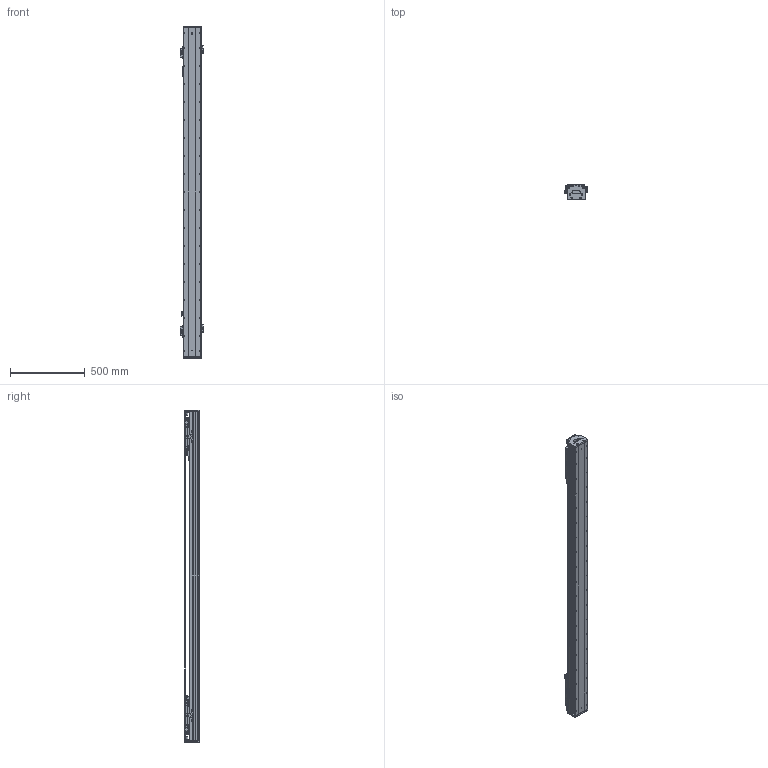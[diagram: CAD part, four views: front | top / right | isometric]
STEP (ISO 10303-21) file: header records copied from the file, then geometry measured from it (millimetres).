
FILE_DESCRIPTION (( 'STEP AP203' ), '1' );
FILE_NAME ('DKW119-2×C3-W060(T1580-L005-0.2).STEP', '2021-09-18T01:00:42', ( '微软用户' ), ( '微软中国' ), 'SwSTEP 2.0', 'SolidWorks 2018', '' );
FILE_SCHEMA (( 'CONFIG_CONTROL_DESIGN' ));
Length unit declared in the file: millimetre
Products named in the file (26): Ru2; 12160-0000-004-00  DKW120詩湍揤輸; 电机出线 ^DKW119-2×C3-W060(T1580-L005-0.2); CKM03-W060_00; DKW119 单轴模组-拉钢带组件; CKMA01-W060-TRLxxx; DKW-DG-XJ-Z-00 笢潔滅袉砎蝶; pm-y65; DKW-HXJ-JY-00 遣喳砎蝶; DKW-GYP-ZJ-00 笢潔嫖萇覜茼え; 10980-0001-003-00 嫖萇羲壽嘐隅釱; 11062-0001-004-00 DKW119傷啣; DKW-KGZ-ZJ-00 中间光电开关支架; 嫖萇羲壽蚾饜极; 06652-0001-004-00 DKW120嶺輸菜輸; EE_SX674A; 嫖萇羲壽蚾饜极A; 12018-0001-002-00 詩湍; 12018-0001-001-00 菁釱; DKW119-2×C3-W060(T1580-L005-0.2); DKW-SG-GYP-H-00 嫖萇覜茼え; 砎蝶猾沭; MSB15-DG-U; RUS嫖掑喜; 12160-0000-003-00 DKW120詩湍嶺輸; DKW119-RU-DTJ-00 RU2黍杅芛盓殤
Assembly tree (45 placements, depth 3):
  DKW119-2×C3-W060(T1580-L005-0.2)
    12018-0001-001-00 菁釱
    MSB15-DG-U  x2
    DKW119-RU-DTJ-00 RU2黍杅芛盓殤  x2
    电机出线 ^DKW119-2×C3-W060(T1580-L005-0.2)  x2
    CKMA01-W060-TRLxxx
    DKW119 单轴模组-拉钢带组件
      DKW-HXJ-JY-00 遣喳砎蝶  x4
      11062-0001-004-00 DKW119傷啣  x2
      06652-0001-004-00 DKW120嶺輸菜輸  x4
      12018-0001-002-00 詩湍
      砎蝶猾沭  x2
      12160-0000-003-00 DKW120詩湍嶺輸  x2
      12160-0000-004-00  DKW120詩湍揤輸  x2
    嫖萇羲壽蚾饜极
      pm-y65  x2
      10980-0001-003-00 嫖萇羲壽嘐隅釱
    嫖萇羲壽蚾饜极A
      pm-y65  x2
      10980-0001-003-00 嫖萇羲壽嘐隅釱
    DKW-SG-GYP-H-00 嫖萇覜茼え  x2
    RUS嫖掑喜
    Ru2  x2
    CKM03-W060_00  x2
    DKW-DG-XJ-Z-00 笢潔滅袉砎蝶
    DKW-GYP-ZJ-00 笢潔嫖萇覜茼え
    DKW-KGZ-ZJ-00 中间光电开关支架
    EE_SX674A
Bounding box: 154.3 x 99 x 2216 mm (x, y, z)
Volume: 10699229.4 mm3; surface area: 3340788.1 mm2
Topology: 62 solids, 160 shells, 6633 faces, 17630 edges, 11290 vertices
Faces by surface type: plane 3532, cylinder 2057, cone 550, bspline 494
Entity records: 136112 total; most frequent: CARTESIAN_POINT 44531, ORIENTED_EDGE 18363, DIRECTION 17760, EDGE_CURVE 9222, VERTEX_POINT 6046, AXIS2_PLACEMENT_3D 6024, VECTOR 5712, LINE 5712
